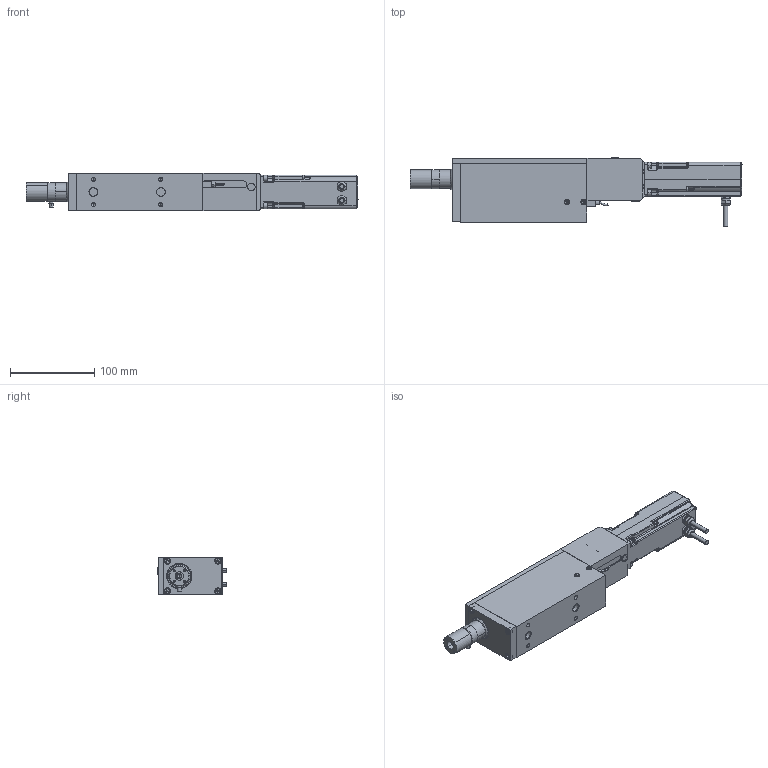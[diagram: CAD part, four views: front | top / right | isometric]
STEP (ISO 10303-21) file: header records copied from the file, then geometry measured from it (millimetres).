
FILE_DESCRIPTION (( 'STEP AP203' ), '1' );
FILE_NAME ('PR5IP002-006-025HG1.STEP', '2017-03-02T12:33:26', ( 'Holtz' ), ( '' ), 'SwSTEP 2.0', 'SolidWorks 2016', '' );
FILE_SCHEMA (( 'CONFIG_CONTROL_DESIGN' ));
Length unit declared in the file: millimetre
Products named in the file (1): PR5IP002-006-025HG1
Bounding box: 393.9 x 82.33 x 45 mm (x, y, z)
Volume: 728570.9 mm3; surface area: 171156.1 mm2
Topology: 27 solids, 27 shells, 1288 faces, 3012 edges, 1757 vertices
Faces by surface type: cylinder 471, plane 438, cone 196, bspline 145, torus 38
Entity records: 41982 total; most frequent: CARTESIAN_POINT 13553, DIRECTION 6012, ORIENTED_EDGE 5752, EDGE_CURVE 2876, AXIS2_PLACEMENT_3D 2316, VERTEX_POINT 1757, EDGE_LOOP 1491, LINE 1380
